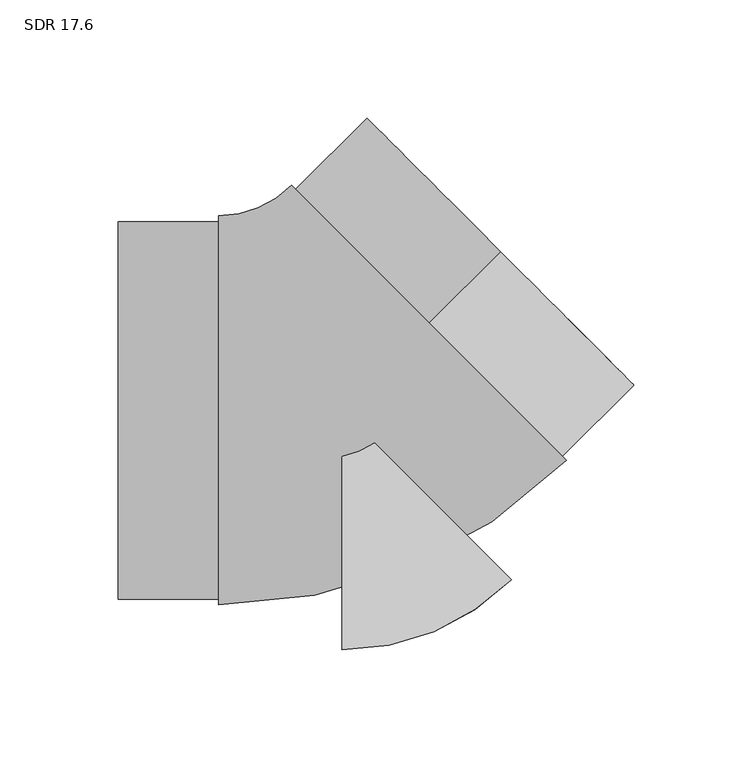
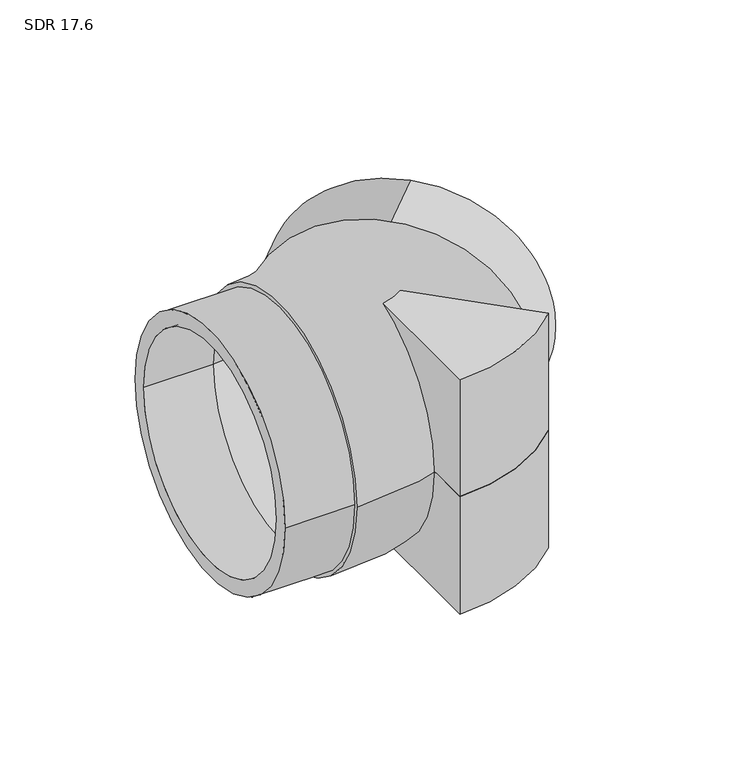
"""IFC4 building model written with IfcOpenShell, lengths in millimetres: pipe fitting geometry, Aquatherm - Elbow BW Molded : SDR 17.6."""

from ifc_helpers import new_model, si_unit, point, frame, frame_2d, origin, origin_with_axes, origin_2d, place, context, project, spatial, polyline, circle_curve, ellipse_curve, trimmed, segment, composite_curve, outline, extrude, source, transform, mapped, element, save
from ifc_brep_helpers import plane_surface, revolved_surface, advanced_brep


def sdr_17_6_5d15e1c4(model_context):
    return source(origin(), model_context, "Body", "SolidModel", [
        extrude(outline(composite_curve([segment(polyline([(0.0, -101.6), (0.0, 0.0), (71.8490456, -71.8350516)]), True, "CONTINUOUS"), segment(trimmed(circle_curve(origin_2d(), 101.6), [point((71.8490456, -71.8350516))], [point((0.0, -101.6))], False, "CARTESIAN"), True, "CONTINUOUS")], self_intersect=False)), frame((0.0, 0.0, -76.2), z_axis=(0.0, 0.0, 1.0), x_axis=(1.0, 0.0, 0.0)), (0.0, 0.0, 1.0), 76.2),
        extrude(outline(composite_curve([segment(trimmed(circle_curve(origin_2d(), 101.6), [point((71.8490456, -71.8350516))], [point((0.0, -101.6))], False, "CARTESIAN"), True, "CONTINUOUS"), segment(polyline([(0.0, -101.6), (0.0, 0.0), (71.8490456, -71.8350516)]), True, "CONTINUOUS")], self_intersect=False)), origin_with_axes(), (0.0, 0.0, 1.0), 76.2),
        extrude(outline(composite_curve([segment(trimmed(circle_curve(frame_2d((0.0, -80.01)), 80.01), [point((0.0, -160.02))], [point((0.0, 0.0))], False, "CARTESIAN"), True, "CONTINUOUS"), segment(trimmed(circle_curve(frame_2d((0.0, -80.01)), 80.01), [point((0.0, 0.0))], [point((0.0, -160.02))], False, "CARTESIAN"), True, "CONTINUOUS")], self_intersect=False), holes=[composite_curve([segment(trimmed(circle_curve(frame_2d((0.0, -80.01)), 70.5970588), [point((0.0, -150.6070588))], [point((0.0, -9.4129412))], True, "CARTESIAN"), True, "CONTINUOUS"), segment(trimmed(circle_curve(frame_2d((0.0, -80.01)), 70.5970588), [point((0.0, -9.4129412))], [point((0.0, -150.6070588))], True, "CARTESIAN"), True, "CONTINUOUS")], self_intersect=False)]), frame((36.9411753, 36.9483717, 80.01), z_axis=(0.7070379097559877, 0.7071756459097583, 0.0), x_axis=(-0.7071756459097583, 0.7070379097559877, 0.0)), (0.0, 0.0, 1.0), 42.7482),
        extrude(outline(composite_curve([segment(trimmed(circle_curve(frame_2d((-0.1496481, 0.0)), 80.01), [point((79.8603519, 0.0))], [point((-80.1596481, 0.0))], False, "CARTESIAN"), True, "CONTINUOUS"), segment(trimmed(circle_curve(frame_2d((-0.1496481, 0.0)), 80.01), [point((-80.1596481, 0.0))], [point((79.8603519, 0.0))], False, "CARTESIAN"), True, "CONTINUOUS")], self_intersect=False), holes=[composite_curve([segment(trimmed(circle_curve(origin_2d(), 70.5970588), [point((70.5970588, 0.0))], [point((-70.5970588, 0.0))], True, "CARTESIAN"), True, "CONTINUOUS"), segment(trimmed(circle_curve(origin_2d(), 70.5970588), [point((-70.5970588, 0.0))], [point((70.5970588, 0.0))], True, "CARTESIAN"), True, "CONTINUOUS")], self_intersect=False)]), frame((-94.996, 0.0, 0.0), z_axis=(1.0, 0.0, 0.0), x_axis=(0.0, 1.0, 0.0)), (0.0, 0.0, 1.0), 42.7482),
        advanced_brep(
        [(-52.2478, -82.4103, 0.0), (-52.2478, 82.4103, 0.0), (-52.2478, -70.5970588, 0.0), (-52.2478, 70.5970588, 0.0), (95.2197324, -21.3188345, 0.0), (-21.3373818, 95.215578, 0.0), (86.865696, -12.9664252, 0.0), (-12.9833454, 86.8631686, 0.0)],
        [
            (0, 1, circle_curve(frame((-52.2478, 0.0, 0.0), z_axis=(-1.0, 0.0, 0.0), x_axis=(0.0, 1.0, 0.0)), 82.4103)),
            (1, 0, circle_curve(frame((-52.2478, 0.0, 0.0), z_axis=(-1.0, 0.0, 0.0), x_axis=(0.0, 1.0, 0.0)), 82.4103)),
            (2, 3, circle_curve(frame((-52.2478, 0.0, 0.0), z_axis=(1.0, 0.0, 0.0), x_axis=(0.0, 1.0, 0.0)), 70.5970588)),
            (3, 2, circle_curve(frame((-52.2478, 0.0, 0.0), z_axis=(1.0, 0.0, 0.0), x_axis=(0.0, 1.0, 0.0)), 70.5970588)),
            (4, 5, circle_curve(frame((36.9411753, 36.9483717, 0.0), z_axis=(0.7070379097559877, 0.7071756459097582, 0.0), x_axis=(-0.7071756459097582, 0.7070379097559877, 0.0)), 82.4103)),
            (5, 4, circle_curve(frame((36.9411753, 36.9483717, 0.0), z_axis=(0.7070379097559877, 0.7071756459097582, 0.0), x_axis=(-0.7071756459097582, 0.7070379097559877, 0.0)), 82.4103)),
            (6, 7, circle_curve(frame((36.9411753, 36.9483717, 0.0), z_axis=(-0.7070379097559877, -0.7071756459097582, 0.0), x_axis=(-0.7071756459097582, 0.7070379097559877, 0.0)), 70.5970588)),
            (7, 6, circle_curve(frame((36.9411753, 36.9483717, 0.0), z_axis=(-0.7070379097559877, -0.7071756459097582, 0.0), x_axis=(-0.7071756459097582, 0.7070379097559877, 0.0)), 70.5970588)),
            (5, 1, circle_curve(frame((-52.2478, 126.1199757, 0.0), z_axis=(0.0, 0.0, -1.0), x_axis=(0.0, -1.0, 0.0)), 43.7096757)),
            (0, 4, circle_curve(frame((-52.2478, 126.1199757, 0.0), z_axis=(0.0, 0.0, 1.0), x_axis=(0.0, -1.0, 0.0)), 208.5302757)),
            (7, 3, circle_curve(frame((-52.2478, 126.1199757, 0.0), z_axis=(0.0, 0.0, -1.0), x_axis=(0.0, -1.0, 0.0)), 55.5229169)),
            (2, 6, circle_curve(frame((-52.2478, 126.1199757, 0.0), z_axis=(0.0, 0.0, 1.0), x_axis=(0.0, -1.0, 0.0)), 196.7170346)),
        ],
        [
            plane_surface(frame((-52.2478, 0.0, 0.0), z_axis=(-1.0, 0.0, 0.0), x_axis=(0.0, 0.0, 1.0))),
            plane_surface(frame((36.9411753, 36.9483717, 0.0), z_axis=(0.7070379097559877, 0.7071756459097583, 0.0), x_axis=(0.0, 0.0, 1.0))),
            revolved_surface(trimmed(ellipse_curve(frame((-52.2478, 0.0, 0.0), z_axis=(-1.0, 0.0, 0.0), x_axis=(0.0, 1.0, 0.0)), 82.4103, 82.4103), [point((-52.2478, -82.4103, 0.0))], [point((-52.2478, 82.4103, 0.0))], True, "CARTESIAN"), (-52.2478, 126.1199757, 0.0), (0.0, 0.0, 1.0)),
            revolved_surface(trimmed(ellipse_curve(frame((-52.2478, 0.0, 0.0), z_axis=(-1.0, 0.0, 0.0), x_axis=(0.0, 1.0, 0.0)), 82.4103, 82.4103), [point((-52.2478, 82.4103, 0.0))], [point((-52.2478, -82.4103, 0.0))], True, "CARTESIAN"), (-52.2478, 126.1199757, 0.0), (0.0, 0.0, 1.0)),
            revolved_surface(trimmed(ellipse_curve(frame((-52.2478, 0.0, 0.0), z_axis=(1.0, 0.0, 0.0), x_axis=(0.0, 1.0, 0.0)), 70.5970588, 70.5970588), [point((-52.2478, -70.5970588, 0.0))], [point((-52.2478, 70.5970588, 0.0))], True, "CARTESIAN"), (-52.2478, 126.1199757, 0.0), (0.0, 0.0, 1.0)),
            revolved_surface(trimmed(ellipse_curve(frame((-52.2478, 0.0, 0.0), z_axis=(1.0, 0.0, 0.0), x_axis=(0.0, 1.0, 0.0)), 70.5970588, 70.5970588), [point((-52.2478, 70.5970588, 0.0))], [point((-52.2478, -70.5970588, 0.0))], True, "CARTESIAN"), (-52.2478, 126.1199757, 0.0), (0.0, 0.0, 1.0)),
        ],
        [
            (0, [[1, 2], [3, 4]]),
            (1, [[5, 6], [7, 8]]),
            (2, [[9, -1, 10, -6]]),
            (3, [[-10, -2, -9, -5]]),
            (4, [[11, -3, 12, -8]]),
            (5, [[-12, -4, -11, -7]]),
        ],
    ),
    ])


if __name__ == "__main__":
    model = new_model("IFC4")
    model_context = context("Model", 3, world=origin())
    ifc_project = project(units=[si_unit("LENGTHUNIT", "METRE", prefix="MILLI")], contexts=[model_context])
    site = spatial("IfcSite", under=ifc_project)
    building = spatial("IfcBuilding", under=site)
    placement = place(None, origin())
    sdr_17_6_shape = sdr_17_6_5d15e1c4(model_context)
    element("IfcPipeFitting", 1, ObjectType="Aquatherm - Elbow BW Molded : SDR 17.6", at=placement, inside=building, context=model_context, shape_type="MappedRepresentation", body=[
        mapped(sdr_17_6_shape, transform((0.0, 0.0, 0.0), x_axis=(1.0, 0.0, 0.0), y_axis=(0.0, 1.0, 0.0), z_axis=(0.0, 0.0, 1.0))),
    ])
    save(model, "model.ifc")
